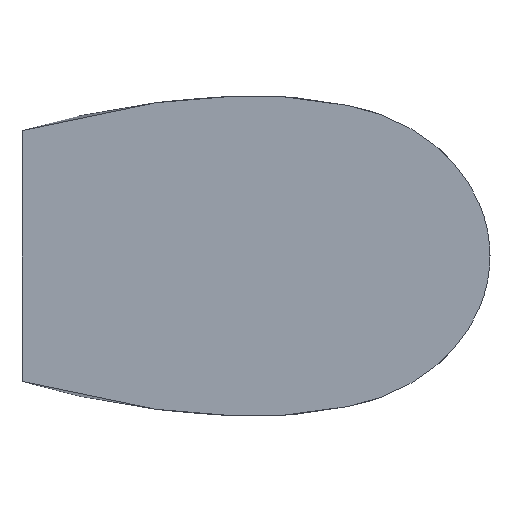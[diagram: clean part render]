
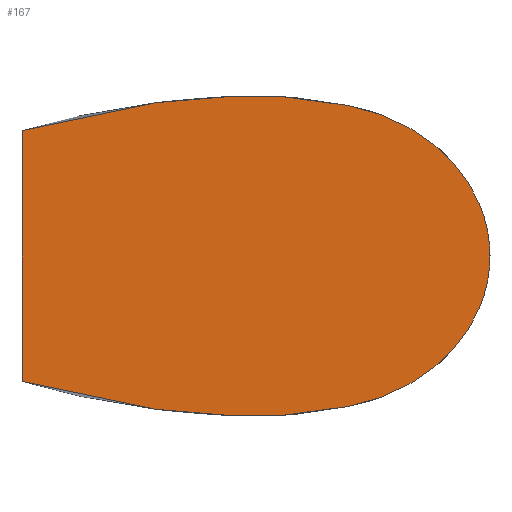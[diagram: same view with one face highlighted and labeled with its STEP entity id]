
A CAD part, left-side view. The second image highlights one B-rep face of the part: STEP entity #167.
In plain terms, the highlighted planar face has unit normal (-1, 0, 0).
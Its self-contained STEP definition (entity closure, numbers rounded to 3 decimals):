
#2=DIRECTION('',(0.,0.,-1.));
#3=VECTOR('',#2,1.906);
#4=CARTESIAN_POINT('',(-9.,-0.3,0.953));
#5=LINE('',#4,#3);
#10=CARTESIAN_POINT('',(-9.,-0.3,0.953));
#11=CARTESIAN_POINT('',(-9.,-0.446,0.996));
#12=CARTESIAN_POINT('',(-9.,-0.736,1.07));
#13=CARTESIAN_POINT('',(-9.,-1.101,1.137));
#14=CARTESIAN_POINT('',(-9.,-1.362,1.17));
#15=CARTESIAN_POINT('',(-9.,-1.513,1.186));
#16=CARTESIAN_POINT('',(-9.,-1.627,1.195));
#17=CARTESIAN_POINT('',(-9.,-1.743,1.203));
#18=CARTESIAN_POINT('',(-9.,-1.899,1.215));
#19=CARTESIAN_POINT('',(-9.,-2.11,1.219));
#20=CARTESIAN_POINT('',(-9.,-2.381,1.206));
#21=CARTESIAN_POINT('',(-9.,-2.669,1.166));
#22=CARTESIAN_POINT('',(-9.,-2.961,1.106));
#23=CARTESIAN_POINT('',(-9.,-3.241,0.987));
#24=CARTESIAN_POINT('',(-9.,-3.491,0.81));
#25=CARTESIAN_POINT('',(-9.,-3.693,0.577));
#26=CARTESIAN_POINT('',(-9.,-3.825,0.3));
#27=CARTESIAN_POINT('',(-9.,-3.855,0.099));
#28=CARTESIAN_POINT('',(-9.,-3.855,0.));
#30=CARTESIAN_POINT('',(-9.,-0.3,-0.953));
#31=CARTESIAN_POINT('',(-9.,-0.446,-0.996));
#32=CARTESIAN_POINT('',(-9.,-0.736,-1.07));
#33=CARTESIAN_POINT('',(-9.,-1.101,-1.137));
#34=CARTESIAN_POINT('',(-9.,-1.362,-1.17));
#35=CARTESIAN_POINT('',(-9.,-1.513,-1.186));
#36=CARTESIAN_POINT('',(-9.,-1.627,-1.195));
#37=CARTESIAN_POINT('',(-9.,-1.743,-1.203));
#38=CARTESIAN_POINT('',(-9.,-1.899,-1.215));
#39=CARTESIAN_POINT('',(-9.,-2.11,-1.219));
#40=CARTESIAN_POINT('',(-9.,-2.381,-1.206));
#41=CARTESIAN_POINT('',(-9.,-2.669,-1.166));
#42=CARTESIAN_POINT('',(-9.,-2.961,-1.106));
#43=CARTESIAN_POINT('',(-9.,-3.241,-0.987));
#44=CARTESIAN_POINT('',(-9.,-3.491,-0.81));
#45=CARTESIAN_POINT('',(-9.,-3.693,-0.577));
#46=CARTESIAN_POINT('',(-9.,-3.825,-0.3));
#47=CARTESIAN_POINT('',(-9.,-3.855,-0.099));
#48=CARTESIAN_POINT('',(-9.,-3.855,0.));
#132=CARTESIAN_POINT('',(-9.,-0.3,0.953));
#133=CARTESIAN_POINT('',(-9.,-0.3,-0.953));
#134=VERTEX_POINT('',#132);
#135=VERTEX_POINT('',#133);
#136=VERTEX_POINT('',#28);
#155=CARTESIAN_POINT('',(-9.,0.,0.));
#156=DIRECTION('',(1.,0.,0.));
#157=DIRECTION('',(0.,0.,-1.));
#158=AXIS2_PLACEMENT_3D('',#155,#156,#157);
#159=PLANE('',#158);
#160=ORIENTED_EDGE('',*,*,#142,.F.);
#162=ORIENTED_EDGE('',*,*,#161,.T.);
#164=ORIENTED_EDGE('',*,*,#163,.F.);
#165=EDGE_LOOP('',(#160,#162,#164));
#166=FACE_OUTER_BOUND('',#165,.F.);
#167=ADVANCED_FACE('',(#166),#159,.F.);
#29=B_SPLINE_CURVE_WITH_KNOTS('',3,(#10,#11,#12,#13,#14,#15,#16,#17,#18,#19,#20,
#21,#22,#23,#24,#25,#26,#27,#28),.UNSPECIFIED.,.F.,.F.,(4,1,1,1,1,1,1,1,1,1,1,1,
1,1,1,1,4),(0.,0.117,0.234,0.292,0.321,
0.35,0.38,0.409,0.467,0.534,
0.6,0.667,0.734,0.8,0.867,
0.933,1.),.UNSPECIFIED.);
#49=B_SPLINE_CURVE_WITH_KNOTS('',3,(#30,#31,#32,#33,#34,#35,#36,#37,#38,#39,#40,
#41,#42,#43,#44,#45,#46,#47,#48),.UNSPECIFIED.,.F.,.F.,(4,1,1,1,1,1,1,1,1,1,1,1,
1,1,1,1,4),(0.,0.117,0.234,0.292,
0.321,0.35,0.38,0.409,
0.467,0.534,0.6,0.667,
0.734,0.8,0.867,0.933,1.),
.UNSPECIFIED.);
#142=EDGE_CURVE('',#134,#135,#5,.T.);
#161=EDGE_CURVE('',#134,#136,#29,.T.);
#163=EDGE_CURVE('',#135,#136,#49,.T.);
